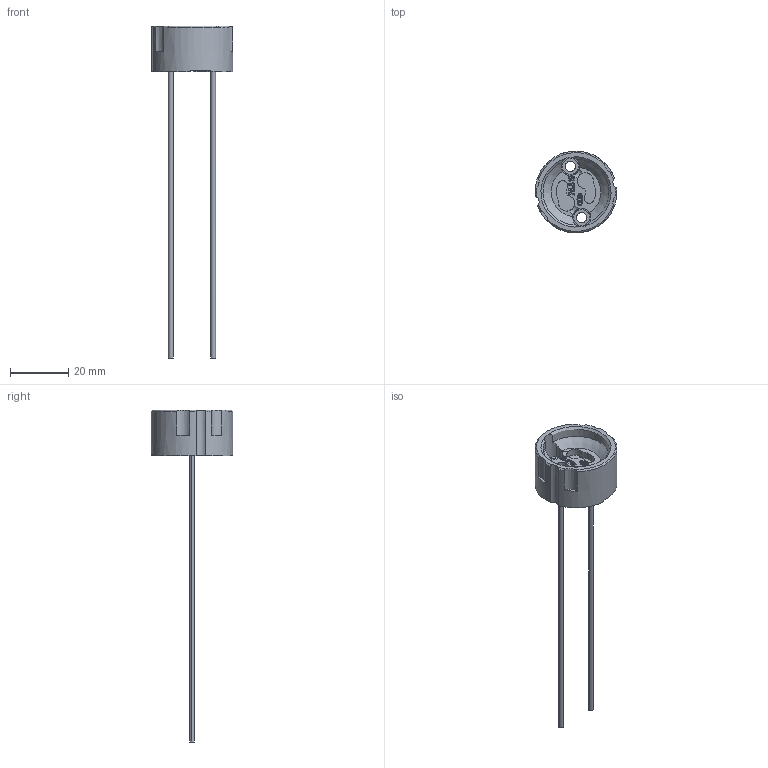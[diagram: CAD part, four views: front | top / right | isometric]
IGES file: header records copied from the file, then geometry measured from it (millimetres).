
Global section: file name: C:\CoreTechnologie\3D-in\00AYI1WY06.igs; native system: CT CoreTechnologie 3D Evolution; preprocessor: 2006; author: 0Ì62; date: 1171020.133846; units: millimetre
Bounding box: 28 x 27.98 x 113.7 mm (x, y, z)
Volume: 6610.4 mm3; surface area: 4645 mm2
Topology: 1 solids, 4 shells, 229 faces, 621 edges, 420 vertices
Faces by surface type: plane 106, revolution 101, bspline 22
